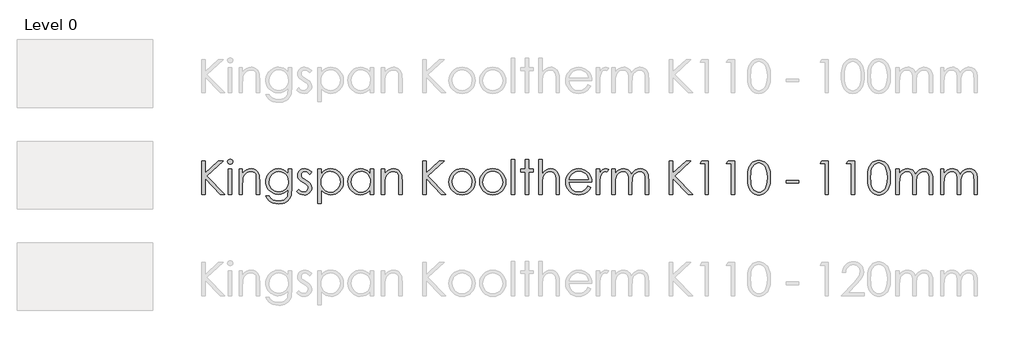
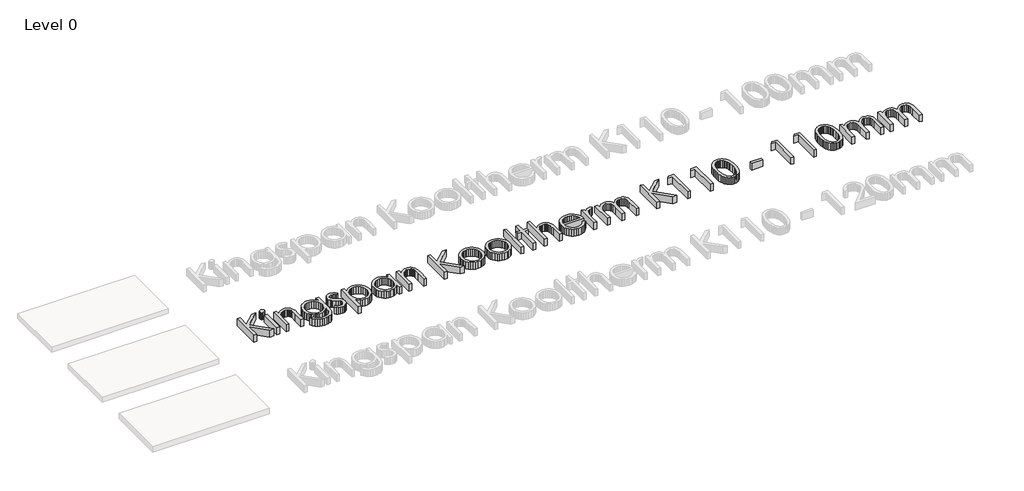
# One storey, part 2 of 9: 1 proxy.
"""IFC4 building model written with IfcOpenShell, lengths in millimetres."""

from ifc_helpers import new_model, si_unit, origin, origin_with_axes, place, context, project, spatial, polyline, outline, extrude, element, save

model = new_model("IFC4")

# Units and contexts
model_context = context("Model", 3, world=origin())
ifc_project = project(units=[si_unit("LENGTHUNIT", "METRE", prefix="MILLI")], contexts=[model_context])

# Site, building, storey
site = spatial("IfcSite", under=ifc_project)
building = spatial("IfcBuilding", under=site)
storey = spatial("IfcBuildingStorey", under=building, Name="Level 0", Elevation=0.0)

# Proxy
placement = place(None, origin())
element("IfcBuildingElementProxy", 1, Name="600mm KI_CenturyGothic", ObjectType="600mm KI_CenturyGothic", at=placement, inside=storey, context=model_context, shape_type="SweptSolid", body=[
    extrude(outline(polyline([(-3852.2663848, -6699.1034017), (-3792.944575, -6699.1034017), (-3792.944575, -6918.316027), (-3555.1938841, -6699.1034017), (-3471.6181051, -6699.1034017), (-3760.9664119, -6966.0515459), (-3441.9572002, -7292.3214999), (-3520.8984627, -7292.3214999), (-3792.944575, -7014.0960325), (-3792.944575, -7292.3214999), (-3852.2663848, -7292.3214999), (-3852.2663848, -6699.1034017)])), origin_with_axes(), (0.0, 0.0, 1.0), 150.0),
    extrude(outline(polyline([(-3348.1854852, -6669.4424967), (-3329.145347, -6672.7252792), (-3313.1176445, -6682.5736265), (-3302.226531, -6697.0178693), (-3298.5961598, -6714.088338), (-3302.226531, -6730.9270809), (-3313.1176445, -6745.2940817), (-3329.145347, -6755.142429), (-3348.1854852, -6758.4252115), (-3366.9938975, -6755.142429), (-3382.9443581, -6745.2940817), (-3393.8354717, -6730.9270809), (-3397.4658428, -6714.088338), (-3393.8354717, -6697.0178693), (-3382.9443581, -6682.5736265), (-3366.9938975, -6672.7252792), (-3348.1854852, -6669.4424967)])), origin_with_axes(), (0.0, 0.0, 1.0), 150.0),
    extrude(outline(polyline([(-3377.6919062, -6847.4079262), (-3318.3700964, -6847.4079262), (-3318.3700964, -7292.3214999), (-3377.6919062, -7292.3214999), (-3377.6919062, -6847.4079262)])), origin_with_axes(), (0.0, 0.0, 1.0), 150.0),
    extrude(outline(polyline([(-3189.8395084, -6847.4079262), (-3130.5176986, -6847.4079262), (-3130.5176986, -6926.5036726), (-3096.9946967, -6886.9944204), (-3060.0730495, -6859.303185), (-3019.7141359, -6842.9665147), (-2975.879335, -6837.5209579), (-2953.4357238, -6839.0995901), (-2932.2955704, -6843.8354865), (-2912.4588747, -6851.7286472), (-2893.9256368, -6862.7790723), (-2877.212412, -6876.5039994), (-2862.835756, -6892.4206667), (-2841.0921499, -6930.8292213), (-2833.6238199, -6955.2087086), (-2828.2892984, -6985.5551357), (-2824.0216812, -7064.1488095), (-2824.0216812, -7292.3214999), (-2883.343491, -7292.3214999), (-2883.343491, -7079.1337458), (-2883.343491, -6976.092998), (-2884.7290183, -6955.2956057), (-2889.8125035, -6937.2403023), (-2898.2849788, -6921.9270877), (-2910.1464442, -6909.355962), (-2924.7403432, -6899.5558909), (-2941.4101193, -6892.5558401), (-2980.977303, -6886.9557994), (-3005.3471351, -6889.1137461), (-3028.4038541, -6895.5875862), (-3050.1474602, -6906.3773197), (-3070.5779533, -6921.4829466), (-3088.6622225, -6939.7651482), (-3103.3671568, -6960.084606), (-3114.6927562, -6982.44132), (-3122.6390208, -7006.8352901), (-3128.5480292, -7053.9142525), (-3130.5176986, -7128.4141035), (-3130.5176986, -7292.3214999), (-3189.8395084, -7292.3214999), (-3189.8395084, -6847.4079262)])), origin_with_axes(), (0.0, 0.0, 1.0), 150.0),
    extrude(outline(polyline([(-2319.7862977, -6847.4079262), (-2260.4644879, -6847.4079262), (-2260.4644879, -7198.395301), (-2264.5196897, -7278.6496765), (-2269.588692, -7309.4499001), (-2276.6852953, -7334.0321474), (-2289.9371156, -7362.6454585), (-2307.2924139, -7387.7732271), (-2328.7511904, -7409.4154531), (-2354.3134448, -7427.5721366), (-2383.3226209, -7441.9343098), (-2415.122162, -7452.1930049), (-2449.7120682, -7458.348222), (-2487.0923395, -7460.3999611), (-2541.0458345, -7456.3833802), (-2589.206184, -7444.3336376), (-2630.260275, -7425.5059147), (-2662.8949946, -7401.1553932), (-2690.2000204, -7367.8061856), (-2715.2650299, -7321.9824048), (-2655.94322, -7321.9824048), (-2642.4355358, -7343.151524), (-2627.0933555, -7361.3951046), (-2609.9166791, -7376.7131468), (-2590.9055067, -7389.1056506), (-2569.7894914, -7398.6691682), (-2546.2982864, -7405.5002523), (-2492.1903075, -7410.9651195), (-2438.5071593, -7405.6354257), (-2415.083541, -7398.9733084), (-2393.93856, -7389.6463441), (-2359.6624492, -7365.6047903), (-2336.8567664, -7336.1176798), (-2329.3884364, -7317.4782342), (-2324.0539149, -7293.7697863), (-2319.7862977, -7231.1458835), (-2319.7862977, -7208.4367532), (-2354.757586, -7244.2190818), (-2396.6420279, -7270.6165148), (-2443.392712, -7286.8952536), (-2492.9627269, -7292.3214999), (-2522.4063889, -7290.4242447), (-2550.9521133, -7284.7324793), (-2578.5999001, -7275.2462036), (-2605.3497494, -7261.9654175), (-2630.1540674, -7245.4742634), (-2651.9652601, -7226.3568832), (-2670.7833277, -7204.6132772), (-2686.6082702, -7180.2434451), (-2699.1456025, -7153.9280817), (-2708.1008399, -7126.3478816), (-2713.4739824, -7097.5028447), (-2715.2650299, -7067.392971), (-2713.3967404, -7037.1044753), (-2707.7918722, -7007.8780563), (-2698.4504251, -6979.713714), (-2685.3723991, -6952.6114483), (-2668.9971079, -6927.4257483), (-2649.7638648, -6905.0111029), (-2627.67267, -6885.367512), (-2602.7235235, -6868.4949758), (-2575.9833294, -6854.943843), (-2548.5189922, -6845.2644624), (-2520.3305117, -6839.456834), (-2491.4178881, -6837.5209579), (-2444.5320306, -6842.4644421), (-2400.8903346, -6857.2948945), (-2359.6045177, -6883.8661218), (-2319.7862977, -6924.0319306), (-2319.7862977, -6847.4079262)]), holes=[polyline([(-2484.1571458, -6886.9557994), (-2529.0154023, -6892.9806707), (-2570.5908765, -6911.0552847), (-2606.2187212, -6939.7699758), (-2633.2340897, -6977.7150788), (-2650.2659375, -7021.9940208), (-2655.94322, -7069.7102292), (-2653.0080263, -7105.6229036), (-2644.2024452, -7138.2817613), (-2629.5264766, -7167.6868023), (-2608.9801206, -7193.8380266), (-2583.7606272, -7215.296803), (-2555.0652466, -7230.6245004), (-2522.8939786, -7239.8211189), (-2487.2468234, -7242.8866584), (-2451.3244937, -7239.845257), (-2419.1001219, -7230.7210528), (-2390.573708, -7215.5140459), (-2365.7452519, -7194.2242363), (-2345.6382095, -7167.9812872), (-2331.2760363, -7137.9148621), (-2322.6587323, -7104.024961), (-2319.7862977, -7066.3115838), (-2325.0773706, -7017.6105407), (-2340.9505892, -6974.3936754), (-2366.4983608, -6938.1672056), (-2400.8130926, -6910.4373492), (-2440.9982119, -6892.8261869), (-2484.1571458, -6886.9557994)])]), origin_with_axes(), (0.0, 0.0, 1.0), 150.0),
    extrude(outline(polyline([(-1904.5336289, -6898.6965743), (-1940.9918246, -6936.390641), (-1962.9575012, -6914.7628978), (-1984.6721416, -6899.3145098), (-2006.1357456, -6890.045477), (-2027.3483133, -6886.9557994), (-2052.181597, -6891.6289368), (-2073.2300256, -6905.6483489), (-2087.5970264, -6925.8857371), (-2092.3860267, -6949.212803), (-2088.4466878, -6970.7633042), (-2076.628671, -6991.2324183), (-2052.0657341, -7013.400855), (-2010.2006027, -7039.122421), (-1958.3326401, -7071.9888664), (-1939.8428507, -7087.8138088), (-1926.315856, -7103.2332311), (-1909.9791857, -7135.9065716), (-1904.5336289, -7172.4420092), (-1906.9474396, -7198.5884059), (-1914.1888714, -7222.6492701), (-1926.2579245, -7244.624602), (-1943.1545989, -7264.5144015), (-1963.6719892, -7281.0055557), (-1986.6031901, -7292.7849515), (-2011.9482016, -7299.852589), (-2039.7070237, -7302.2084682), (-2077.4397114, -7298.3270607), (-2113.3958344, -7286.6828383), (-2145.4512394, -7268.2027042), (-2171.4817731, -7243.8135617), (-2135.7959969, -7203.3387852), (-2114.0041146, -7224.9665283), (-2091.5749863, -7240.4149163), (-2068.5086121, -7249.6839491), (-2044.8049918, -7252.7736267), (-2013.637869, -7247.1349651), (-1987.4914724, -7230.2189802), (-1969.7644472, -7205.6560434), (-1963.8554388, -7177.0765256), (-1967.7561567, -7153.2860081), (-1979.4583106, -7132.2762005), (-2005.0253927, -7110.5712154), (-2050.2119275, -7083.7682622), (-2099.762632, -7053.1032121), (-2117.441381, -7037.9444814), (-2130.3890611, -7022.9016136), (-2146.3781427, -6990.7689666), (-2151.7078365, -6954.310771), (-2149.5305794, -6930.2643896), (-2142.9988078, -6908.3325063), (-2132.1125219, -6888.5151211), (-2116.8717217, -6870.812234), (-2098.309518, -6856.2473007), (-2077.4590218, -6845.8437769), (-2054.3202332, -6839.6016627), (-2028.8931521, -6837.5209579), (-1997.9481, -6841.3444339), (-1966.9064954, -6852.814862), (-1935.7683384, -6871.9322421), (-1904.5336289, -6898.6965743)])), origin_with_axes(), (0.0, 0.0, 1.0), 150.0),
    extrude(outline(polyline([(-1795.7769776, -6847.4079262), (-1736.4551678, -6847.4079262), (-1736.4551678, -6928.5119631), (-1700.9238754, -6888.2689124), (-1660.4490989, -6859.9211205), (-1614.9922173, -6843.1209986), (-1564.5146096, -6837.5209579), (-1520.0618732, -6841.7596094), (-1478.9305402, -6854.4755637), (-1441.1206107, -6875.668821), (-1406.6320845, -6905.3393811), (-1377.9077381, -6940.9768811), (-1357.3903478, -6980.070958), (-1345.0799137, -7022.6216116), (-1340.9764356, -7068.628842), (-1345.0412927, -7115.5291824), (-1357.235864, -7158.7508754), (-1377.5601494, -7198.293921), (-1406.014149, -7234.1583192), (-1440.2130179, -7263.9302594), (-1477.7719111, -7285.1959309), (-1518.6908288, -7297.9553339), (-1562.9697708, -7302.2084682), (-1612.6170277, -7296.743601), (-1658.0545988, -7280.3489992), (-1699.3211052, -7253.1019049), (-1736.4551678, -7215.07956), (-1736.4551678, -7450.5129928), (-1795.7769776, -7450.5129928), (-1795.7769776, -6847.4079262)]), holes=[polyline([(-1568.5311905, -6886.9557994), (-1602.5852307, -6890.2530647), (-1633.8392507, -6900.1448607), (-1662.2932503, -6916.6311872), (-1687.9472295, -6939.7120444), (-1709.1694525, -6967.6977647), (-1724.3281832, -6998.8986808), (-1733.4234216, -7033.3147926), (-1736.4551678, -7070.9461002), (-1731.048232, -7119.8016272), (-1714.8274246, -7163.4819442), (-1688.5265441, -7200.3263495), (-1652.8793888, -7228.6741414), (-1611.4390881, -7246.7487554), (-1567.7587711, -7252.7736267), (-1525.0632888, -7246.7101344), (-1485.0326535, -7228.5196576), (-1450.2544701, -7199.4187567), (-1423.3163435, -7160.6239924), (-1406.05277, -7115.9588407), (-1400.2982454, -7069.2467775), (-1405.9948385, -7022.3029886), (-1423.0846177, -6977.8695627), (-1449.8103289, -6939.5189395), (-1484.414718, -6910.8235589), (-1524.7157001, -6892.9227393), (-1568.5311905, -6886.9557994)])]), origin_with_axes(), (0.0, 0.0, 1.0), 150.0),
    extrude(outline(polyline([(-807.0801472, -6847.4079262), (-807.0801472, -7292.3214999), (-866.401957, -7292.3214999), (-866.401957, -7216.4699149), (-903.4780882, -7254.3184655), (-944.8797679, -7281.0441767), (-990.4525125, -7296.9173953), (-1040.0418379, -7302.2084682), (-1084.3159523, -7297.9553339), (-1125.2203871, -7285.1959309), (-1162.7551422, -7263.9302594), (-1196.9202178, -7234.1583192), (-1225.340424, -7198.293921), (-1245.6405713, -7158.7508754), (-1257.8206597, -7115.5291824), (-1261.8806892, -7068.628842), (-1257.7820388, -7022.6216116), (-1245.4860875, -6980.070958), (-1224.9928353, -6940.9768811), (-1196.3022822, -6905.3393811), (-1161.8475494, -6875.668821), (-1124.061758, -6854.4755637), (-1082.9449079, -6841.7596094), (-1038.4969991, -6837.5209579), (-987.7490446, -6843.1209986), (-942.0990581, -6859.9211205), (-921.2051134, -6872.6081091), (-901.6242816, -6888.2689124), (-866.401957, -6928.5119631), (-866.401957, -6847.4079262), (-807.0801472, -6847.4079262)]), holes=[polyline([(-1034.3259343, -6886.9557994), (-1078.1414247, -6892.9227393), (-1118.4424068, -6910.8235589), (-1153.0467959, -6939.5189395), (-1179.7725071, -6977.8695627), (-1196.8622863, -7022.3029886), (-1202.5588794, -7069.2467775), (-1196.8043548, -7115.9588407), (-1179.5407813, -7160.6239924), (-1152.6026548, -7199.4187567), (-1117.8244713, -7228.5196576), (-1077.6779731, -7246.7101344), (-1034.6349021, -7252.7736267), (-991.0125165, -7246.7487554), (-949.7460102, -7228.6741414), (-914.2726493, -7200.3263495), (-888.0297002, -7163.4819442), (-871.8088928, -7119.8016272), (-866.401957, -7070.9461002), (-869.4337032, -7033.3147926), (-878.5289416, -6998.8986808), (-893.6876723, -6967.6977647), (-914.9098953, -6939.7120444), (-940.5638746, -6916.6311872), (-969.0178742, -6900.1448607), (-1000.2718941, -6890.2530647), (-1034.3259343, -6886.9557994)])]), origin_with_axes(), (0.0, 0.0, 1.0), 150.0),
    extrude(outline(polyline([(-668.662591, -6847.4079262), (-609.3407811, -6847.4079262), (-609.3407811, -6926.5036726), (-575.8177792, -6886.9944204), (-538.896132, -6859.303185), (-498.5372184, -6842.9665147), (-454.7024175, -6837.5209579), (-432.2588064, -6839.0995901), (-411.1186529, -6843.8354865), (-391.2819572, -6851.7286472), (-372.7487193, -6862.7790723), (-356.0354946, -6876.5039994), (-341.6588385, -6892.4206667), (-319.9152324, -6930.8292213), (-312.4469024, -6955.2087086), (-307.1123809, -6985.5551357), (-302.8447637, -7064.1488095), (-302.8447637, -7292.3214999), (-362.1665735, -7292.3214999), (-362.1665735, -7079.1337458), (-362.1665735, -6976.092998), (-363.5521008, -6955.2956057), (-368.635586, -6937.2403023), (-377.1080613, -6921.9270877), (-388.9695267, -6909.355962), (-403.5634257, -6899.5558909), (-420.2332018, -6892.5558401), (-459.8003855, -6886.9557994), (-484.1702176, -6889.1137461), (-507.2269366, -6895.5875862), (-528.9705427, -6906.3773197), (-549.4010358, -6921.4829466), (-567.485305, -6939.7651482), (-582.1902393, -6960.084606), (-593.5158387, -6982.44132), (-601.4621033, -7006.8352901), (-607.3711117, -7053.9142525), (-609.3407811, -7128.4141035), (-609.3407811, -7292.3214999), (-668.662591, -7292.3214999), (-668.662591, -6847.4079262)])), origin_with_axes(), (0.0, 0.0, 1.0), 150.0),
    extrude(outline(polyline([(62.9730635, -6699.1034017), (122.2948734, -6699.1034017), (122.2948734, -6918.316027), (360.0455643, -6699.1034017), (443.6213432, -6699.1034017), (154.2730365, -6966.0515459), (473.2822481, -7292.3214999), (394.3409856, -7292.3214999), (122.2948734, -7014.0960325), (122.2948734, -7292.3214999), (62.9730635, -7292.3214999), (62.9730635, -6699.1034017)])), origin_with_axes(), (0.0, 0.0, 1.0), 150.0),
    extrude(outline(polyline([(760.1588128, -6837.5209579), (809.4681362, -6842.1458191), (854.3553585, -6856.0204025), (894.8204798, -6879.1447083), (930.8635, -6911.5187363), (957.7630055, -6946.7507161), (976.9769381, -6985.091684), (988.5052976, -7026.54164), (992.3480841, -7071.1005841), (988.283227, -7115.9153921), (976.0886558, -7157.8239721), (955.7643703, -7196.8263241), (927.3103707, -7232.9224481), (892.4742558, -7263.2350819), (853.0036246, -7284.8869632), (808.8984769, -7297.8780919), (760.1588128, -7302.2084682), (711.2839754, -7297.8780919), (667.0822753, -7284.8869632), (627.5537126, -7263.2350819), (592.6982872, -7232.9224481), (564.2442876, -7196.8263241), (543.9200022, -7157.8239721), (531.7254309, -7115.9153921), (527.6605738, -7071.1005841), (531.5033603, -7026.7347449), (543.0317198, -6985.4006518), (562.2456524, -6947.0983049), (589.145158, -6911.8277041), (625.2074886, -6879.3185026), (665.7305413, -6856.0976445), (710.7143161, -6842.1651295), (760.1588128, -6837.5209579)]), holes=[polyline([(760.004329, -6886.9557994), (725.7282181, -6890.3303067), (693.9624704, -6900.4538284), (664.7070856, -6917.3263647), (637.962064, -6940.9479154), (615.6584538, -6969.3584664), (599.7273037, -7000.5980035), (590.1686137, -7034.6665266), (586.9823836, -7071.5640357), (592.7948396, -7119.2995546), (610.2322075, -7163.6364281), (637.5758543, -7201.4270471), (673.1071466, -7229.5238028), (714.6439998, -7246.9611707), (760.004329, -7252.7736267), (805.3646581, -7246.9611707), (846.9015113, -7229.5238028), (882.4328037, -7201.4270471), (909.7764504, -7163.6364281), (927.2138183, -7119.2995546), (933.0262743, -7071.5640357), (929.8255614, -7034.6665266), (920.2234227, -7000.5980035), (904.2198583, -6969.3584664), (881.8148681, -6940.9479154), (854.9974321, -6917.3263647), (825.7565303, -6900.4538284), (794.0921625, -6890.3303067), (760.004329, -6886.9557994)])]), origin_with_axes(), (0.0, 0.0, 1.0), 150.0),
    extrude(outline(polyline([(1303.9420695, -6837.5209579), (1353.2513929, -6842.1458191), (1398.1386152, -6856.0204025), (1438.6037365, -6879.1447083), (1474.6467567, -6911.5187363), (1501.5462622, -6946.7507161), (1520.7601948, -6985.091684), (1532.2885543, -7026.54164), (1536.1313408, -7071.1005841), (1532.0664837, -7115.9153921), (1519.8719125, -7157.8239721), (1499.547627, -7196.8263241), (1471.0936274, -7232.9224481), (1436.2575126, -7263.2350819), (1396.7868813, -7284.8869632), (1352.6817336, -7297.8780919), (1303.9420695, -7302.2084682), (1255.0672321, -7297.8780919), (1210.865532, -7284.8869632), (1171.3369693, -7263.2350819), (1136.4815439, -7232.9224481), (1108.0275443, -7196.8263241), (1087.7032589, -7157.8239721), (1075.5086876, -7115.9153921), (1071.4438305, -7071.1005841), (1075.286617, -7026.7347449), (1086.8149766, -6985.4006518), (1106.0289091, -6947.0983049), (1132.9284147, -6911.8277041), (1168.9907453, -6879.3185026), (1209.5137981, -6856.0976445), (1254.4975728, -6842.1651295), (1303.9420695, -6837.5209579)]), holes=[polyline([(1303.7875857, -6886.9557994), (1269.5114748, -6890.3303067), (1237.7457271, -6900.4538284), (1208.4903423, -6917.3263647), (1181.7453207, -6940.9479154), (1159.4417105, -6969.3584664), (1143.5105604, -7000.5980035), (1133.9518704, -7034.6665266), (1130.7656404, -7071.5640357), (1136.5780963, -7119.2995546), (1154.0154643, -7163.6364281), (1181.359111, -7201.4270471), (1216.8904033, -7229.5238028), (1258.4272565, -7246.9611707), (1303.7875857, -7252.7736267), (1349.1479149, -7246.9611707), (1390.684768, -7229.5238028), (1426.2160604, -7201.4270471), (1453.5597071, -7163.6364281), (1470.997075, -7119.2995546), (1476.809531, -7071.5640357), (1473.6088181, -7034.6665266), (1464.0066795, -7000.5980035), (1448.003115, -6969.3584664), (1425.5981249, -6940.9479154), (1398.7806889, -6917.3263647), (1369.539787, -6900.4538284), (1337.8754193, -6890.3303067), (1303.7875857, -6886.9557994)])]), origin_with_axes(), (0.0, 0.0, 1.0), 150.0),
    extrude(outline(polyline([(1635.0010238, -6679.3294651), (1694.3228337, -6679.3294651), (1694.3228337, -7292.3214999), (1635.0010238, -7292.3214999), (1635.0010238, -6679.3294651)])), origin_with_axes(), (0.0, 0.0, 1.0), 150.0),
    extrude(outline(polyline([(1882.1752314, -6679.3294651), (1941.4970413, -6679.3294651), (1941.4970413, -6847.4079262), (2020.5927877, -6847.4079262), (2020.5927877, -6896.8427677), (1941.4970413, -6896.8427677), (1941.4970413, -7292.3214999), (1882.1752314, -7292.3214999), (1882.1752314, -6896.8427677), (1803.079485, -6896.8427677), (1803.079485, -6847.4079262), (1882.1752314, -6847.4079262), (1882.1752314, -6679.3294651)])), origin_with_axes(), (0.0, 0.0, 1.0), 150.0),
    extrude(outline(polyline([(2119.4624707, -6679.3294651), (2178.7842806, -6679.3294651), (2178.7842806, -6928.0485114), (2212.5583188, -6888.3461544), (2249.6151394, -6860.0756044), (2289.9161216, -6843.1596195), (2333.4226442, -6837.5209579), (2355.8662553, -6839.0995901), (2377.0064088, -6843.8354865), (2396.8431044, -6851.7286472), (2415.3763424, -6862.7790723), (2432.0895671, -6876.4895166), (2446.4662232, -6892.3627352), (2468.2098293, -6930.5974955), (2475.6781593, -6954.9045684), (2481.0126808, -6985.2654784), (2485.280298, -7064.1488095), (2485.280298, -7292.3214999), (2425.9584882, -7292.3214999), (2425.9584882, -7079.1337458), (2424.5681332, -7014.752589), (2420.3970685, -6976.092998), (2406.879729, -6937.2403023), (2397.1665551, -6921.9270877), (2385.4837117, -6909.355962), (2371.840854, -6899.5558909), (2356.2476374, -6892.5558401), (2319.2101273, -6886.9557994), (2296.3416854, -6889.1137461), (2274.6994594, -6895.5875862), (2254.2834492, -6906.3773197), (2235.0936547, -6921.4829466), (2218.1052556, -6939.7651482), (2204.2934312, -6960.084606), (2193.6581816, -6982.44132), (2186.1995068, -7006.8352901), (2180.6380871, -7053.6825267), (2178.7842806, -7128.4141035), (2178.7842806, -7292.3214999), (2119.4624707, -7292.3214999), (2119.4624707, -6679.3294651)])), origin_with_axes(), (0.0, 0.0, 1.0), 150.0),
    extrude(outline(polyline([(2991.0605203, -7144.0169753), (3038.950523, -7169.1978477), (3013.3255094, -7211.0822896), (2984.0315038, -7244.0452875), (2950.952643, -7269.1296074), (2913.9730643, -7287.3780157), (2872.4941426, -7298.5008551), (2825.9172528, -7302.2084682), (2774.4258447, -7297.7767119), (2728.8627554, -7284.481443), (2689.227985, -7262.3226615), (2655.5215335, -7231.3003674), (2628.6220279, -7194.6973431), (2609.4080954, -7155.7963712), (2597.8797358, -7114.5974515), (2594.0369493, -7071.1005841), (2597.3197318, -7030.2202874), (2607.1680791, -6991.618628), (2623.5819913, -6955.2956057), (2646.5614684, -6921.2512207), (2682.7493173, -6884.6192308), (2724.5758277, -6858.4535236), (2772.0409998, -6842.7540993), (2825.1448334, -6837.5209579), (2879.7935059, -6842.8892727), (2928.6490329, -6858.9942172), (2971.7114143, -6885.8357913), (3008.9806503, -6923.4139951), (3030.4539096, -6955.585263), (3045.9022976, -6991.541386), (3055.3258143, -7031.2823641), (3058.7244596, -7074.8081972), (2653.3587591, -7074.8081972), (2657.095338, -7112.0629503), (2666.6057518, -7145.8128504), (2681.8900007, -7176.0578975), (2702.9480845, -7202.7980916), (2728.3124066, -7224.6623882), (2756.5153699, -7240.2797429), (2787.5569744, -7249.6501557), (2821.4372203, -7252.7736267), (2854.9602222, -7249.761191), (2887.5563208, -7240.7238841), (2917.2944677, -7226.6851615), (2942.2436143, -7208.668479), (2965.725164, -7182.5027719), (2991.0605203, -7144.0169753)]), holes=[polyline([(2999.4026498, -7025.3733557), (2984.9777175, -6982.8516678), (2965.1844704, -6949.8307385), (2939.0766947, -6924.3022774), (2905.7081767, -6904.257994), (2867.7630738, -6891.2813481), (2827.9255433, -6886.9557994), (2795.503239, -6889.6689226), (2765.4368139, -6897.808292), (2737.726268, -6911.3739077), (2712.3716012, -6930.3657696), (2695.8321708, -6948.179692), (2681.4362043, -6969.9522638), (2669.1837016, -6995.683485), (2659.0746627, -7025.3733557), (2999.4026498, -7025.3733557)])]), origin_with_axes(), (0.0, 0.0, 1.0), 150.0),
    extrude(outline(polyline([(3137.820206, -6847.4079262), (3197.1420159, -6847.4079262), (3197.1420159, -6911.8277041), (3222.6897875, -6878.7874643), (3249.589293, -6855.6728138), (3277.7632906, -6842.0589219), (3307.1345382, -6837.5209579), (3330.4616041, -6841.305813), (3355.3335087, -6852.6603781), (3325.8270877, -6894.6799934), (3297.2475699, -6886.9557994), (3270.8308265, -6892.9034288), (3245.3409863, -6910.7463169), (3223.2884125, -6941.1023993), (3207.183468, -6984.5896114), (3199.6523789, -7042.7141712), (3197.1420159, -7140.1548783), (3197.1420159, -7292.3214999), (3137.820206, -7292.3214999), (3137.820206, -6847.4079262)])), origin_with_axes(), (0.0, 0.0, 1.0), 150.0),
    extrude(outline(polyline([(3414.6553185, -6847.4079262), (3473.9771284, -6847.4079262), (3473.9771284, -6923.5684789), (3503.5607913, -6887.0716623), (3533.9168737, -6861.9294109), (3577.3268439, -6843.6230712), (3622.8995884, -6837.5209579), (3653.7384329, -6840.668567), (3682.9165757, -6850.1113941), (3708.6767627, -6864.7873627), (3729.2617397, -6883.634396), (3746.0425511, -6909.0663047), (3760.3902414, -6943.4968994), (3775.16759, -6919.0981017), (3791.6925376, -6897.808292), (3809.965084, -6879.6274704), (3829.9852293, -6864.5556369), (3851.2798666, -6852.7279648), (3873.375889, -6844.2796277), (3896.2732965, -6839.2106253), (3919.9720892, -6837.5209579), (3962.3006723, -6843.3334139), (3981.4952943, -6850.5989839), (3999.3768034, -6860.7707818), (4015.4914031, -6873.53984), (4029.385297, -6888.5971907), (4050.5109676, -6925.5767694), (4057.8103309, -6948.9521114), (4063.0241619, -6977.5219739), (4067.1952266, -7050.2452603), (4067.1952266, -7292.3214999), (4007.8734168, -7292.3214999), (4007.8734168, -7046.6921311), (4005.4209852, -6985.5744462), (3998.0636904, -6947.1272706), (3984.7587663, -6922.6608861), (3964.4634466, -6903.4855746), (3938.3942919, -6891.0882432), (3907.7678627, -6886.9557994), (3888.1194443, -6888.5054659), (3869.3399976, -6893.1544651), (3834.3880198, -6911.7504621), (3805.6540182, -6940.6968791), (3785.8800816, -6977.9468046), (3779.1889985, -7002.1042213), (3774.4096535, -7033.1747916), (3770.5861775, -7116.0553931), (3770.5861775, -7292.3214999), (3711.2643677, -7292.3214999), (3711.2643677, -7061.9860352), (3708.850557, -6993.530366), (3701.6091252, -6951.2983353), (3688.3621325, -6925.0553863), (3667.9316394, -6904.5669617), (3641.6114484, -6891.35859), (3610.6953619, -6886.9557994), (3573.7544042, -6892.9999812), (3539.2465676, -6911.1325266), (3510.2808401, -6939.499629), (3489.9662099, -6976.2474819), (3477.9743988, -7028.0768236), (3473.9771284, -7101.6883923), (3473.9771284, -7292.3214999), (3414.6553185, -7292.3214999), (3414.6553185, -6847.4079262)])), origin_with_axes(), (0.0, 0.0, 1.0), 150.0),
    extrude(outline(polyline([(4433.0130538, -6699.1034017), (4492.3348637, -6699.1034017), (4492.3348637, -6918.316027), (4730.0855546, -6699.1034017), (4813.6613335, -6699.1034017), (4524.3130268, -6966.0515459), (4843.3222385, -7292.3214999), (4764.3809759, -7292.3214999), (4492.3348637, -7014.0960325), (4492.3348637, -7292.3214999), (4433.0130538, -7292.3214999), (4433.0130538, -6699.1034017)])), origin_with_axes(), (0.0, 0.0, 1.0), 150.0),
    extrude(outline(polyline([(5010.6282802, -6699.1034017), (5125.1008351, -6699.1034017), (5125.1008351, -7292.3214999), (5065.7790253, -7292.3214999), (5065.7790253, -6748.5382432), (4976.7963106, -6748.5382432), (5010.6282802, -6699.1034017)])), origin_with_axes(), (0.0, 0.0, 1.0), 150.0),
    extrude(outline(polyline([(5475.3157905, -6699.1034017), (5589.7883454, -6699.1034017), (5589.7883454, -7292.3214999), (5530.4665356, -7292.3214999), (5530.4665356, -6748.5382432), (5441.4838208, -6748.5382432), (5475.3157905, -6699.1034017)])), origin_with_axes(), (0.0, 0.0, 1.0), 150.0),
    extrude(outline(polyline([(5817.1886164, -6995.8669347), (5818.7672485, -6941.4355052), (5823.503145, -6893.5406748), (5831.3963057, -6852.1824436), (5842.4467307, -6817.3608116), (5856.374418, -6787.7192172), (5872.8993655, -6761.9010988), (5892.0215733, -6739.9064564), (5913.7410412, -6721.73529), (5937.4350063, -6707.5082902), (5962.4807053, -6697.3461475), (5988.8781382, -6691.2488619), (6016.6273051, -6689.2164334), (6044.8302684, -6691.2633448), (6071.6621873, -6697.404079), (6097.1230617, -6707.638636), (6121.2128917, -6721.9670159), (6143.3958113, -6740.3843909), (6163.1359546, -6762.8859335), (6180.4333215, -6789.4716437), (6195.2879121, -6820.1415214), (6207.2169642, -6855.6583309), (6215.7377157, -6896.7848363), (6220.8501666, -6943.5210375), (6222.5543169, -6995.8669347), (6220.8743047, -7048.0535203), (6215.8342681, -7094.6207548), (6207.4342071, -7135.5686382), (6195.6741218, -7170.8971704), (6180.9643599, -7201.4222195), (6163.7152692, -7227.9596535), (6143.9268497, -7250.5094723), (6121.5991014, -7269.071676), (6097.3403047, -7283.5690226), (6071.7587397, -7293.9242701), (6044.8544066, -7300.1374187), (6016.6273051, -7302.2084682), (5988.9022764, -7300.2001778), (5962.5772577, -7294.1753064), (5937.6522492, -7284.1338543), (5914.1272509, -7270.0758212), (5892.5526116, -7252.0398282), (5873.4786801, -7230.0644964), (5856.9054564, -7204.1498255), (5842.8329404, -7174.2958158), (5831.6135487, -7139.2762513), (5823.5996974, -7097.8649163), (5818.7913866, -7050.0618107), (5817.1886164, -6995.8669347)]), holes=[polyline([(5876.5104262, -6995.7124508), (5880.8939063, -7084.038609), (5886.3732564, -7119.0195525), (5894.0443466, -7147.8790723), (5903.8589006, -7172.1185586), (5915.7686422, -7193.2394015), (5929.7735714, -7211.2416011), (5945.8736882, -7226.1251574), (5981.1732547, -7246.1115094), (5999.5761469, -7251.1080973), (6018.4811117, -7252.7736267), (6037.4729737, -7251.1418907), (6055.8275896, -7246.2466828), (6090.6250835, -7226.665851), (6106.3824393, -7211.9898824), (6120.1315046, -7194.0697524), (6131.8722794, -7172.9054608), (6141.6047639, -7148.4970078), (6151.0669015, -7115.1381451), (6157.8255712, -7078.5544313), (6163.232507, -6995.7124508), (6158.4048858, -6914.1063413), (6152.3703592, -6879.4150551), (6143.9220221, -6848.7982811), (6133.3398763, -6822.135329), (6120.903924, -6799.3055082), (6106.6141651, -6780.3088186), (6090.4705997, -6765.1452603), (6055.402759, -6745.2747712), (6037.1736612, -6740.307149), (6018.4811117, -6738.6512749), (5999.4651116, -6740.307149), (5981.0380814, -6745.2747712), (5945.9509302, -6765.1452603), (5930.0052972, -6779.9564022), (5916.0776099, -6797.8958428), (5904.1678683, -6818.9635819), (5894.2760724, -6843.1596195), (5886.5036022, -6872.0143117), (5880.9518378, -6907.0580143), (5876.5104262, -6995.7124508)])]), origin_with_axes(), (0.0, 0.0, 1.0), 150.0),
    extrude(outline(polyline([(6499.3894294, -7045.1472923), (6726.7897004, -7045.1472923), (6726.7897004, -7094.5821338), (6499.3894294, -7094.5821338), (6499.3894294, -7045.1472923)])), origin_with_axes(), (0.0, 0.0, 1.0), 150.0),
    extrude(outline(polyline([(7136.3264656, -6699.1034017), (7250.7990205, -6699.1034017), (7250.7990205, -7292.3214999), (7191.4772106, -7292.3214999), (7191.4772106, -6748.5382432), (7102.4944959, -6748.5382432), (7136.3264656, -6699.1034017)])), origin_with_axes(), (0.0, 0.0, 1.0), 150.0),
    extrude(outline(polyline([(7601.0139758, -6699.1034017), (7715.4865307, -6699.1034017), (7715.4865307, -7292.3214999), (7656.1647209, -7292.3214999), (7656.1647209, -6748.5382432), (7567.1820062, -6748.5382432), (7601.0139758, -6699.1034017)])), origin_with_axes(), (0.0, 0.0, 1.0), 150.0),
    extrude(outline(polyline([(7942.8868017, -6995.8669347), (7944.4654339, -6941.4355052), (7949.2013303, -6893.5406748), (7957.094491, -6852.1824436), (7968.1449161, -6817.3608116), (7982.0726034, -6787.7192172), (7998.5975509, -6761.9010988), (8017.7197586, -6739.9064564), (8039.4392266, -6721.73529), (8063.1331916, -6707.5082902), (8088.1788906, -6697.3461475), (8114.5763236, -6691.2488619), (8142.3254905, -6689.2164334), (8170.5284538, -6691.2633448), (8197.3603726, -6697.404079), (8222.8212471, -6707.638636), (8246.9110771, -6721.9670159), (8269.0939967, -6740.3843909), (8288.8341399, -6762.8859335), (8306.1315069, -6789.4716437), (8320.9860974, -6820.1415214), (8332.9151495, -6855.6583309), (8341.435901, -6896.7848363), (8346.5483519, -6943.5210375), (8348.2525022, -6995.8669347), (8346.57249, -7048.0535203), (8341.5324534, -7094.6207548), (8333.1323925, -7135.5686382), (8321.3723071, -7170.8971704), (8306.6625452, -7201.4222195), (8289.4134545, -7227.9596535), (8269.625035, -7250.5094723), (8247.2972868, -7269.071676), (8223.03849, -7283.5690226), (8197.4569251, -7293.9242701), (8170.5525919, -7300.1374187), (8142.3254905, -7302.2084682), (8114.6004617, -7300.2001778), (8088.2754431, -7294.1753064), (8063.3504346, -7284.1338543), (8039.8254363, -7270.0758212), (8018.2507969, -7252.0398282), (7999.1768654, -7230.0644964), (7982.6036417, -7204.1498255), (7968.5311258, -7174.2958158), (7957.311734, -7139.2762513), (7949.2978827, -7097.8649163), (7944.489572, -7050.0618107), (7942.8868017, -6995.8669347)]), holes=[polyline([(8002.2086116, -6995.7124508), (8006.5920916, -7084.038609), (8012.0714418, -7119.0195525), (8019.7425319, -7147.8790723), (8029.5570859, -7172.1185586), (8041.4668275, -7193.2394015), (8055.4717567, -7211.2416011), (8071.5718736, -7226.1251574), (8106.8714401, -7246.1115094), (8125.2743323, -7251.1080973), (8144.179297, -7252.7736267), (8163.171159, -7251.1418907), (8181.525775, -7246.2466828), (8216.3232689, -7226.665851), (8232.0806246, -7211.9898824), (8245.8296899, -7194.0697524), (8257.5704648, -7172.9054608), (8267.3029492, -7148.4970078), (8276.7650868, -7115.1381451), (8283.5237566, -7078.5544313), (8288.9306924, -6995.7124508), (8284.1030711, -6914.1063413), (8278.0685446, -6879.4150551), (8269.6202074, -6848.7982811), (8259.0380616, -6822.135329), (8246.6021093, -6799.3055082), (8232.3123504, -6780.3088186), (8216.168785, -6765.1452603), (8181.1009443, -6745.2747712), (8162.8718465, -6740.307149), (8144.179297, -6738.6512749), (8125.163297, -6740.307149), (8106.7362667, -6745.2747712), (8071.6491155, -6765.1452603), (8055.7034825, -6779.9564022), (8041.7757953, -6797.8958428), (8029.8660536, -6818.9635819), (8019.9742577, -6843.1596195), (8012.2017875, -6872.0143117), (8006.6500231, -6907.0580143), (8002.2086116, -6995.7124508)])]), origin_with_axes(), (0.0, 0.0, 1.0), 150.0),
    extrude(outline(polyline([(8447.1221852, -6847.4079262), (8506.4439951, -6847.4079262), (8506.4439951, -6923.5684789), (8536.027658, -6887.0716623), (8566.3837404, -6861.9294109), (8609.7937106, -6843.6230712), (8655.3664551, -6837.5209579), (8686.2052996, -6840.668567), (8715.3834424, -6850.1113941), (8741.1436294, -6864.7873627), (8761.7286063, -6883.634396), (8778.5094178, -6909.0663047), (8792.8571081, -6943.4968994), (8807.6344567, -6919.0981017), (8824.1594042, -6897.808292), (8842.4319506, -6879.6274704), (8862.4520959, -6864.5556369), (8883.7467332, -6852.7279648), (8905.8427557, -6844.2796277), (8928.7401632, -6839.2106253), (8952.4389559, -6837.5209579), (8994.7675389, -6843.3334139), (9013.962161, -6850.5989839), (9031.8436701, -6860.7707818), (9047.9582698, -6873.53984), (9061.8521637, -6888.5971907), (9082.9778343, -6925.5767694), (9090.2771976, -6948.9521114), (9095.4910285, -6977.5219739), (9099.6620933, -7050.2452603), (9099.6620933, -7292.3214999), (9040.3402835, -7292.3214999), (9040.3402835, -7046.6921311), (9037.8878519, -6985.5744462), (9030.5305571, -6947.1272706), (9017.225633, -6922.6608861), (8996.9303133, -6903.4855746), (8970.8611585, -6891.0882432), (8940.2347294, -6886.9557994), (8920.5863109, -6888.5054659), (8901.8068643, -6893.1544651), (8866.8548865, -6911.7504621), (8838.1208849, -6940.6968791), (8818.3469483, -6977.9468046), (8811.6558652, -7002.1042213), (8806.8765202, -7033.1747916), (8803.0530442, -7116.0553931), (8803.0530442, -7292.3214999), (8743.7312343, -7292.3214999), (8743.7312343, -7061.9860352), (8741.3174237, -6993.530366), (8734.0759919, -6951.2983353), (8720.8289992, -6925.0553863), (8700.3985061, -6904.5669617), (8674.0783151, -6891.35859), (8643.1622286, -6886.9557994), (8606.2212709, -6892.9999812), (8571.7134342, -6911.1325266), (8542.7477068, -6939.499629), (8522.4330766, -6976.2474819), (8510.4412654, -7028.0768236), (8506.4439951, -7101.6883923), (8506.4439951, -7292.3214999), (8447.1221852, -7292.3214999), (8447.1221852, -6847.4079262)])), origin_with_axes(), (0.0, 0.0, 1.0), 150.0),
    extrude(outline(polyline([(9238.0796495, -6847.4079262), (9297.4014594, -6847.4079262), (9297.4014594, -6923.5684789), (9326.9851223, -6887.0716623), (9357.3412047, -6861.9294109), (9400.7511749, -6843.6230712), (9446.3239194, -6837.5209579), (9477.1627639, -6840.668567), (9506.3409067, -6850.1113941), (9532.1010937, -6864.7873627), (9552.6860706, -6883.634396), (9569.4668821, -6909.0663047), (9583.8145724, -6943.4968994), (9598.591921, -6919.0981017), (9615.1168685, -6897.808292), (9633.389415, -6879.6274704), (9653.4095602, -6864.5556369), (9674.7041975, -6852.7279648), (9696.80022, -6844.2796277), (9719.6976275, -6839.2106253), (9743.3964202, -6837.5209579), (9785.7250032, -6843.3334139), (9804.9196253, -6850.5989839), (9822.8011344, -6860.7707818), (9838.9157341, -6873.53984), (9852.809628, -6888.5971907), (9873.9352986, -6925.5767694), (9881.2346619, -6948.9521114), (9886.4484928, -6977.5219739), (9890.6195576, -7050.2452603), (9890.6195576, -7292.3214999), (9831.2977478, -7292.3214999), (9831.2977478, -7046.6921311), (9828.8453162, -6985.5744462), (9821.4880214, -6947.1272706), (9808.1830973, -6922.6608861), (9787.8877776, -6903.4855746), (9761.8186229, -6891.0882432), (9731.1921937, -6886.9557994), (9711.5437752, -6888.5054659), (9692.7643286, -6893.1544651), (9657.8123508, -6911.7504621), (9629.0783492, -6940.6968791), (9609.3044126, -6977.9468046), (9602.6133295, -7002.1042213), (9597.8339845, -7033.1747916), (9594.0105085, -7116.0553931), (9594.0105085, -7292.3214999), (9534.6886987, -7292.3214999), (9534.6886987, -7061.9860352), (9532.274888, -6993.530366), (9525.0334562, -6951.2983353), (9511.7864635, -6925.0553863), (9491.3559704, -6904.5669617), (9465.0357794, -6891.35859), (9434.1196929, -6886.9557994), (9397.1787352, -6892.9999812), (9362.6708986, -6911.1325266), (9333.7051711, -6939.499629), (9313.3905409, -6976.2474819), (9301.3987298, -7028.0768236), (9297.4014594, -7101.6883923), (9297.4014594, -7292.3214999), (9238.0796495, -7292.3214999), (9238.0796495, -6847.4079262)])), origin_with_axes(), (0.0, 0.0, 1.0), 150.0),
])

save(model, "model.ifc")
